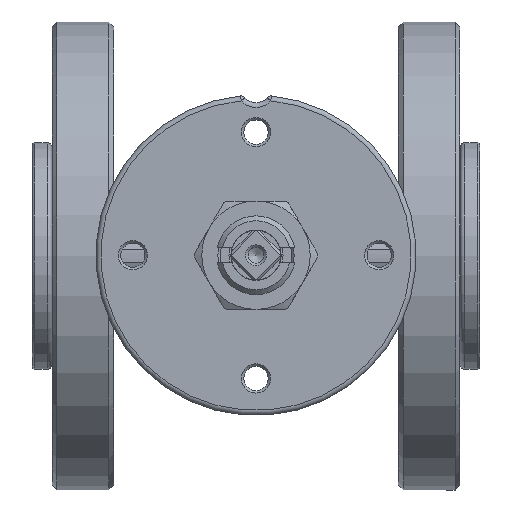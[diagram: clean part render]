
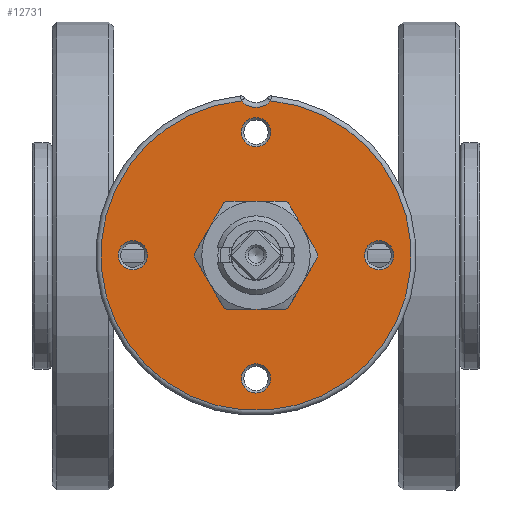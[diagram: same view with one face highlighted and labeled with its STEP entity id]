
A CAD part, top view. The second image highlights one B-rep face of the part: STEP entity #12731.
In plain terms, the highlighted planar face has unit normal (0, 0, 1) as drawn and (-1, 0, 0) by its records, which use the part's own axes.
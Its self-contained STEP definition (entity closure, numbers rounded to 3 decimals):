
#2664=FACE_BOUND('',#4243,.T.);
#2665=FACE_BOUND('',#4244,.T.);
#2666=FACE_BOUND('',#4245,.T.);
#2667=FACE_BOUND('',#4246,.T.);
#2668=FACE_BOUND('',#4247,.T.);
#3447=FACE_OUTER_BOUND('',#4242,.T.);
#4242=EDGE_LOOP('',(#8881,#8882));
#4243=EDGE_LOOP('',(#8883));
#4244=EDGE_LOOP('',(#8884));
#4245=EDGE_LOOP('',(#8885));
#4246=EDGE_LOOP('',(#8886));
#4247=EDGE_LOOP('',(#8887));
#5244=CIRCLE('',#13566,2.959);
#5245=CIRCLE('',#13568,4.);
#5246=CIRCLE('',#13569,31.5);
#5247=CIRCLE('',#13570,2.959);
#5248=CIRCLE('',#13571,2.959);
#5249=CIRCLE('',#13572,8.);
#5250=CIRCLE('',#13573,2.959);
#5818=VERTEX_POINT('',#18330);
#5819=VERTEX_POINT('',#18333);
#5820=VERTEX_POINT('',#18334);
#5821=VERTEX_POINT('',#18337);
#5822=VERTEX_POINT('',#18339);
#5823=VERTEX_POINT('',#18341);
#5824=VERTEX_POINT('',#18343);
#7045=EDGE_CURVE('',#5818,#5818,#5244,.T.);
#7046=EDGE_CURVE('',#5819,#5820,#5245,.T.);
#7047=EDGE_CURVE('',#5820,#5819,#5246,.T.);
#7048=EDGE_CURVE('',#5821,#5821,#5247,.T.);
#7049=EDGE_CURVE('',#5822,#5822,#5248,.T.);
#7050=EDGE_CURVE('',#5823,#5823,#5249,.T.);
#7051=EDGE_CURVE('',#5824,#5824,#5250,.T.);
#8881=ORIENTED_EDGE('',*,*,#7046,.F.);
#8882=ORIENTED_EDGE('',*,*,#7047,.F.);
#8883=ORIENTED_EDGE('',*,*,#7048,.F.);
#8884=ORIENTED_EDGE('',*,*,#7049,.F.);
#8885=ORIENTED_EDGE('',*,*,#7050,.T.);
#8886=ORIENTED_EDGE('',*,*,#7051,.F.);
#8887=ORIENTED_EDGE('',*,*,#7045,.F.);
#12401=PLANE('',#13567);
#12731=ADVANCED_FACE('',(#3447,#2664,#2665,#2666,#2667,#2668),#12401,.T.);
#13566=AXIS2_PLACEMENT_3D('',#18331,#14944,#14945);
#13567=AXIS2_PLACEMENT_3D('',#18332,#14946,#14947);
#13568=AXIS2_PLACEMENT_3D('',#18335,#14948,#14949);
#13569=AXIS2_PLACEMENT_3D('',#18336,#14950,#14951);
#13570=AXIS2_PLACEMENT_3D('',#18338,#14952,#14953);
#13571=AXIS2_PLACEMENT_3D('',#18340,#14954,#14955);
#13572=AXIS2_PLACEMENT_3D('',#18342,#14956,#14957);
#13573=AXIS2_PLACEMENT_3D('',#18344,#14958,#14959);
#14944=DIRECTION('center_axis',(-1.,0.,0.));
#14945=DIRECTION('ref_axis',(0.,-1.,0.));
#14946=DIRECTION('center_axis',(-1.,0.,0.));
#14947=DIRECTION('ref_axis',(0.,0.,1.));
#14948=DIRECTION('center_axis',(-1.,0.,0.));
#14949=DIRECTION('ref_axis',(0.,0.,
-1.));
#14950=DIRECTION('center_axis',(1.,0.,0.));
#14951=DIRECTION('ref_axis',(0.,-1.,0.));
#14952=DIRECTION('center_axis',(-1.,0.,0.));
#14953=DIRECTION('ref_axis',(0.,-1.,0.));
#14954=DIRECTION('center_axis',(-1.,0.,0.));
#14955=DIRECTION('ref_axis',(0.,-1.,0.));
#14956=DIRECTION('center_axis',(1.,0.,0.));
#14957=DIRECTION('ref_axis',(0.,1.,0.));
#14958=DIRECTION('center_axis',(-1.,0.,0.));
#14959=DIRECTION('ref_axis',(0.,-1.,0.));
#18330=CARTESIAN_POINT('',(-12.5,2.959,-25.));
#18331=CARTESIAN_POINT('Origin',(-12.5,0.,-25.));
#18332=CARTESIAN_POINT('Origin',(-12.5,16.25,0.));
#18333=CARTESIAN_POINT('',(-12.5,3.002,31.357));
#18334=CARTESIAN_POINT('',(-12.5,-3.002,31.357));
#18335=CARTESIAN_POINT('Origin',(-12.5,0.,34.));
#18336=CARTESIAN_POINT('Origin',(-12.5,0.,0.));
#18337=CARTESIAN_POINT('',(-12.5,27.959,0.));
#18338=CARTESIAN_POINT('Origin',(-12.5,25.,0.));
#18339=CARTESIAN_POINT('',(-12.5,2.959,25.));
#18340=CARTESIAN_POINT('Origin',(-12.5,0.,25.));
#18341=CARTESIAN_POINT('',(-12.5,-8.,0.));
#18342=CARTESIAN_POINT('Origin',(-12.5,0.,0.));
#18343=CARTESIAN_POINT('',(-12.5,-22.042,0.));
#18344=CARTESIAN_POINT('Origin',(-12.5,-25.,0.));
